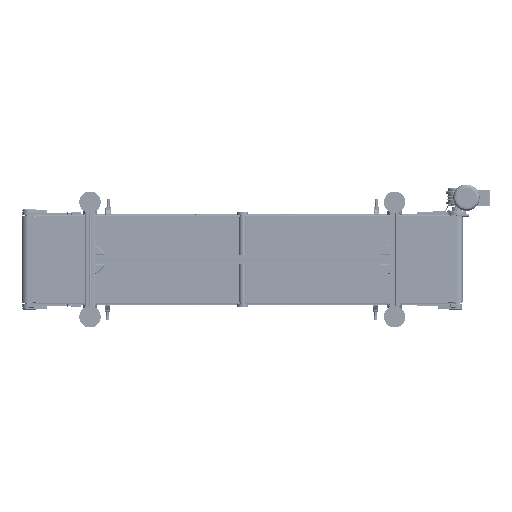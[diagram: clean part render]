
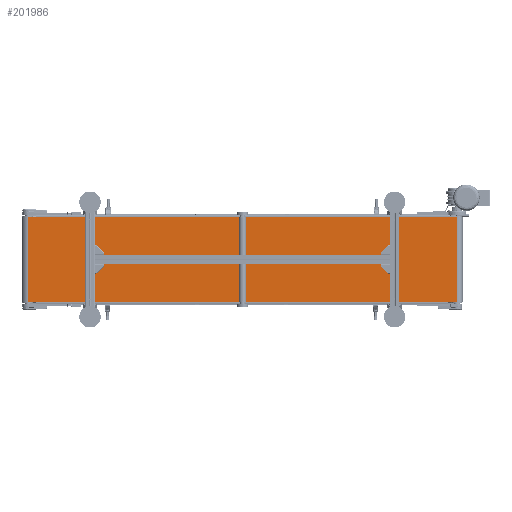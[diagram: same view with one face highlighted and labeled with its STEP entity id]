
A CAD part, front view. The second image highlights one B-rep face of the part: STEP entity #201986.
In plain terms, the highlighted planar face has unit normal (0, -1, 0).
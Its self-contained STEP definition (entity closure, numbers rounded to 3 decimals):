
#8317 = VECTOR ( 'NONE', #124143, 1000. ) ;
#18351 = CARTESIAN_POINT ( 'NONE',  ( -1000., -27., 200. ) ) ;
#42869 = ORIENTED_EDGE ( 'NONE', *, *, #45702, .F. ) ;
#43252 = CARTESIAN_POINT ( 'NONE',  ( -1000., -27., 200. ) ) ;
#45702 = EDGE_CURVE ( 'NONE', #77581, #199951, #228850, .T. ) ;
#46252 = ORIENTED_EDGE ( 'NONE', *, *, #57739, .T. ) ;
#46515 = PLANE ( 'NONE',  #210459 ) ;
#49184 = VERTEX_POINT ( 'NONE', #179699 ) ;
#51665 = CARTESIAN_POINT ( 'NONE',  ( -1000., -27., 200. ) ) ;
#57739 = EDGE_CURVE ( 'NONE', #77581, #49184, #116538, .T. ) ;
#77581 = VERTEX_POINT ( 'NONE', #51665 ) ;
#80427 = ORIENTED_EDGE ( 'NONE', *, *, #112067, .F. ) ;
#84207 = CARTESIAN_POINT ( 'NONE',  ( -1000., -27., -200. ) ) ;
#93268 = CARTESIAN_POINT ( 'NONE',  ( 1000., -27., 200. ) ) ;
#94046 = DIRECTION ( 'NONE',  ( 0., 0., -1. ) ) ;
#109758 = CARTESIAN_POINT ( 'NONE',  ( 1000., -27., -200. ) ) ;
#112067 = EDGE_CURVE ( 'NONE', #199951, #234690, #131697, .T. ) ;
#116201 = VECTOR ( 'NONE', #241976, 1000. ) ;
#116538 = LINE ( 'NONE', #18351, #153352 ) ;
#124143 = DIRECTION ( 'NONE',  ( 1., 0., 0. ) ) ;
#127416 = DIRECTION ( 'NONE',  ( 0., 0., 1. ) ) ;
#131697 = LINE ( 'NONE', #93268, #236626 ) ;
#136010 = LINE ( 'NONE', #84207, #116201 ) ;
#143361 = DIRECTION ( 'NONE',  ( 0., 1., 0. ) ) ;
#153352 = VECTOR ( 'NONE', #94046, 1000. ) ;
#179699 = CARTESIAN_POINT ( 'NONE',  ( -1000., -27., -200. ) ) ;
#184456 = CARTESIAN_POINT ( 'NONE',  ( -1000., -27., 200. ) ) ;
#184838 = EDGE_CURVE ( 'NONE', #49184, #234690, #136010, .T. ) ;
#192703 = DIRECTION ( 'NONE',  ( 0., 0., -1. ) ) ;
#199951 = VERTEX_POINT ( 'NONE', #205079 ) ;
#201986 = ADVANCED_FACE ( 'NONE', ( #244152 ), #46515, .F. ) ;
#205079 = CARTESIAN_POINT ( 'NONE',  ( 1000., -27., 200. ) ) ;
#210459 = AXIS2_PLACEMENT_3D ( 'NONE', #184456, #143361, #127416 ) ;
#214737 = ORIENTED_EDGE ( 'NONE', *, *, #184838, .T. ) ;
#228850 = LINE ( 'NONE', #43252, #8317 ) ;
#234690 = VERTEX_POINT ( 'NONE', #109758 ) ;
#236626 = VECTOR ( 'NONE', #192703, 1000. ) ;
#241976 = DIRECTION ( 'NONE',  ( 1., 0., 0. ) ) ;
#244152 = FACE_OUTER_BOUND ( 'NONE', #248458, .T. ) ;
#248458 = EDGE_LOOP ( 'NONE', ( #214737, #80427, #42869, #46252 ) ) ;
